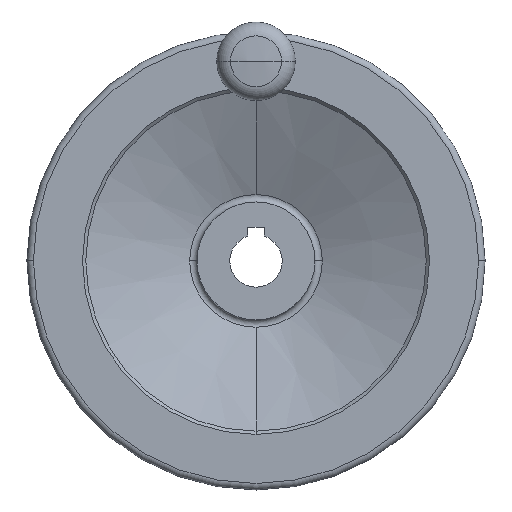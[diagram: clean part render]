
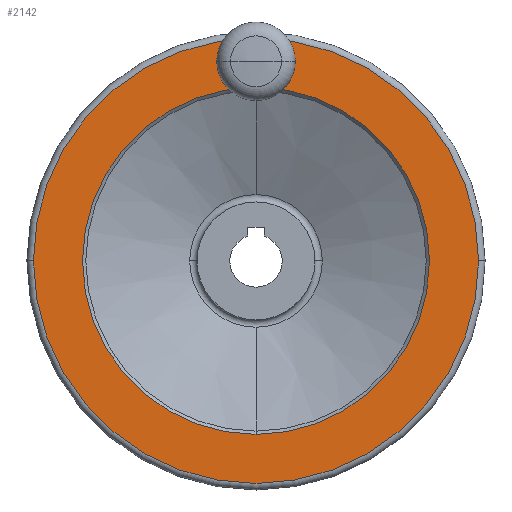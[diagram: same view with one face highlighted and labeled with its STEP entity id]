
A CAD part, left-side view. The second image highlights one B-rep face of the part: STEP entity #2142.
In plain terms, the highlighted planar face has unit normal (-1, 0, 0).
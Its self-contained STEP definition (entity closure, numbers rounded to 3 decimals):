
#58 = DIRECTION ( 'NONE',  ( 0., -1., 0. ) ) ;
#111 = EDGE_LOOP ( 'NONE', ( #479, #863 ) ) ;
#136 = CARTESIAN_POINT ( 'NONE',  ( -114.5, 49., 70. ) ) ;
#148 = CARTESIAN_POINT ( 'NONE',  ( -114.5, 45., -44. ) ) ;
#255 = DIRECTION ( 'NONE',  ( 0., -1., 0. ) ) ;
#301 = CARTESIAN_POINT ( 'NONE',  ( -114.5, 45., 70. ) ) ;
#334 = VERTEX_POINT ( 'NONE', #435 ) ;
#391 = AXIS2_PLACEMENT_3D ( 'NONE', #1560, #1186, #475 ) ;
#435 = CARTESIAN_POINT ( 'NONE',  ( -114.5, 45., -44. ) ) ;
#465 = DIRECTION ( 'NONE',  ( -1., 0., 0. ) ) ;
#475 = DIRECTION ( 'NONE',  ( 0., -1., 0. ) ) ;
#479 = ORIENTED_EDGE ( 'NONE', *, *, #759, .T. ) ;
#567 = DIRECTION ( 'NONE',  ( -1., 0., 0. ) ) ;
#595 = ORIENTED_EDGE ( 'NONE', *, *, #1761, .T. ) ;
#606 = AXIS2_PLACEMENT_3D ( 'NONE', #1280, #2156, #1122 ) ;
#634 = ORIENTED_EDGE ( 'NONE', *, *, #1398, .T. ) ;
#642 = AXIS2_PLACEMENT_3D ( 'NONE', #1133, #1641, #1329 ) ;
#646 = FACE_OUTER_BOUND ( 'NONE', #1697, .T. ) ;
#685 = CIRCLE ( 'NONE', #642, 68. ) ;
#757 = CARTESIAN_POINT ( 'NONE',  ( -114.5, 45., 70. ) ) ;
#759 = EDGE_CURVE ( 'NONE', #881, #909, #1872, .T. ) ;
#841 = VERTEX_POINT ( 'NONE', #1819 ) ;
#863 = ORIENTED_EDGE ( 'NONE', *, *, #1604, .T. ) ;
#881 = VERTEX_POINT ( 'NONE', #1973 ) ;
#909 = VERTEX_POINT ( 'NONE', #136 ) ;
#933 = CIRCLE ( 'NONE', #606, 53. ) ;
#1041 = EDGE_CURVE ( 'NONE', #2148, #334, #1066, .T. ) ;
#1048 = VERTEX_POINT ( 'NONE', #1772 ) ;
#1066 = CIRCLE ( 'NONE', #2081, 53. ) ;
#1113 = AXIS2_PLACEMENT_3D ( 'NONE', #757, #1448, #1828 ) ;
#1122 = DIRECTION ( 'NONE',  ( 0., -1., 0. ) ) ;
#1133 = CARTESIAN_POINT ( 'NONE',  ( -114.5, 45., 9. ) ) ;
#1137 = AXIS2_PLACEMENT_3D ( 'NONE', #301, #1277, #255 ) ;
#1162 = FACE_BOUND ( 'NONE', #2223, .T. ) ;
#1186 = DIRECTION ( 'NONE',  ( -1., 0., 0. ) ) ;
#1277 = DIRECTION ( 'NONE',  ( 1., 0., 0. ) ) ;
#1280 = CARTESIAN_POINT ( 'NONE',  ( -114.5, 45., 9. ) ) ;
#1321 = FACE_BOUND ( 'NONE', #111, .T. ) ;
#1329 = DIRECTION ( 'NONE',  ( 0., -1., 0. ) ) ;
#1357 = CARTESIAN_POINT ( 'NONE',  ( -114.5, 45., 9. ) ) ;
#1398 = EDGE_CURVE ( 'NONE', #1048, #841, #2123, .T. ) ;
#1448 = DIRECTION ( 'NONE',  ( 1., 0., 0. ) ) ;
#1467 = ORIENTED_EDGE ( 'NONE', *, *, #1787, .F. ) ;
#1474 = CIRCLE ( 'NONE', #1113, 4. ) ;
#1519 = AXIS2_PLACEMENT_3D ( 'NONE', #148, #465, #1878 ) ;
#1560 = CARTESIAN_POINT ( 'NONE',  ( -114.5, 45., 9. ) ) ;
#1604 = EDGE_CURVE ( 'NONE', #909, #881, #1474, .T. ) ;
#1634 = ORIENTED_EDGE ( 'NONE', *, *, #1041, .F. ) ;
#1641 = DIRECTION ( 'NONE',  ( -1., 0., 0. ) ) ;
#1697 = EDGE_LOOP ( 'NONE', ( #634, #595 ) ) ;
#1761 = EDGE_CURVE ( 'NONE', #841, #1048, #685, .T. ) ;
#1772 = CARTESIAN_POINT ( 'NONE',  ( -114.5, -23., 9. ) ) ;
#1787 = EDGE_CURVE ( 'NONE', #334, #2148, #933, .T. ) ;
#1819 = CARTESIAN_POINT ( 'NONE',  ( -114.5, 113., 9. ) ) ;
#1828 = DIRECTION ( 'NONE',  ( 0., -1., 0. ) ) ;
#1872 = CIRCLE ( 'NONE', #1137, 4. ) ;
#1878 = DIRECTION ( 'NONE',  ( 0., 0., 1. ) ) ;
#1973 = CARTESIAN_POINT ( 'NONE',  ( -114.5, 41., 70. ) ) ;
#1993 = CARTESIAN_POINT ( 'NONE',  ( -114.5, 45., 62. ) ) ;
#2017 = PLANE ( 'NONE',  #1519 ) ;
#2081 = AXIS2_PLACEMENT_3D ( 'NONE', #1357, #567, #58 ) ;
#2123 = CIRCLE ( 'NONE', #391, 68. ) ;
#2142 = ADVANCED_FACE ( 'NONE', ( #1162, #1321, #646 ), #2017, .T. ) ;
#2148 = VERTEX_POINT ( 'NONE', #1993 ) ;
#2156 = DIRECTION ( 'NONE',  ( -1., 0., 0. ) ) ;
#2223 = EDGE_LOOP ( 'NONE', ( #1467, #1634 ) ) ;
